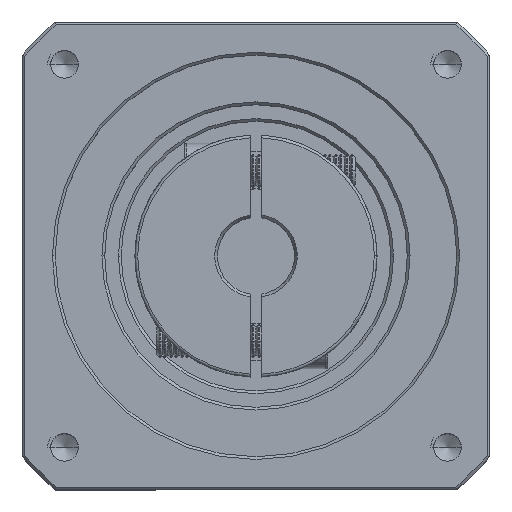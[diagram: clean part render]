
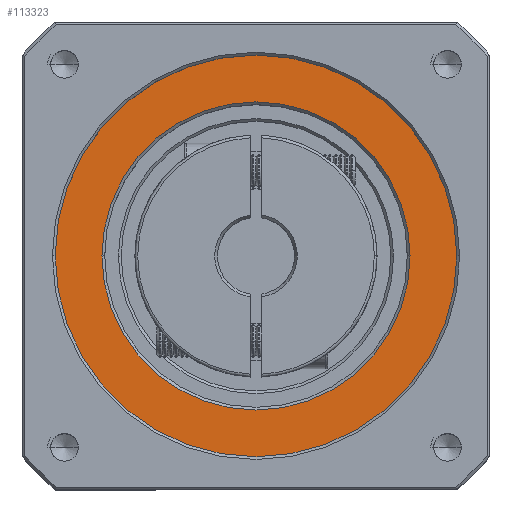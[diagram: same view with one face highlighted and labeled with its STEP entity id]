
A CAD part, top view. The second image highlights one B-rep face of the part: STEP entity #113323.
In plain terms, the highlighted planar face has unit normal (0, 0, 1).
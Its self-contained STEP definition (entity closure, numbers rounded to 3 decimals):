
#769 = CARTESIAN_POINT ( 'NONE',  ( -66.124, 38.632, -19.036 ) ) ;
#2038 = CIRCLE ( 'NONE', #87037, 28. ) ;
#6031 = VERTEX_POINT ( 'NONE', #769 ) ;
#10219 = DIRECTION ( 'NONE',  ( 1., 0., 0. ) ) ;
#10966 = ORIENTED_EDGE ( 'NONE', *, *, #96999, .T. ) ;
#18696 = EDGE_CURVE ( 'NONE', #32006, #43533, #67580, .T. ) ;
#20598 = DIRECTION ( 'NONE',  ( 1., 0., 0. ) ) ;
#21361 = CIRCLE ( 'NONE', #25538, 28. ) ;
#25538 = AXIS2_PLACEMENT_3D ( 'NONE', #28935, #117570, #10219 ) ;
#26741 = CIRCLE ( 'NONE', #72069, 36.5 ) ;
#28935 = CARTESIAN_POINT ( 'NONE',  ( -38.124, 38.632, -19.036 ) ) ;
#32006 = VERTEX_POINT ( 'NONE', #73909 ) ;
#35706 = EDGE_CURVE ( 'NONE', #6031, #106479, #2038, .T. ) ;
#43533 = VERTEX_POINT ( 'NONE', #58560 ) ;
#47748 = CARTESIAN_POINT ( 'NONE',  ( -38.124, 38.632, -19.036 ) ) ;
#49942 = PLANE ( 'NONE',  #103780 ) ;
#50928 = EDGE_LOOP ( 'NONE', ( #120904, #56202 ) ) ;
#56202 = ORIENTED_EDGE ( 'NONE', *, *, #18696, .T. ) ;
#58560 = CARTESIAN_POINT ( 'NONE',  ( -1.624, 38.632, -19.036 ) ) ;
#59765 = CARTESIAN_POINT ( 'NONE',  ( -38.124, 38.632, -19.036 ) ) ;
#67580 = CIRCLE ( 'NONE', #87040, 36.5 ) ;
#68226 = CARTESIAN_POINT ( 'NONE',  ( -38.124, 38.632, -19.036 ) ) ;
#69275 = FACE_BOUND ( 'NONE', #102968, .T. ) ;
#69985 = DIRECTION ( 'NONE',  ( 1., 0., 0. ) ) ;
#72069 = AXIS2_PLACEMENT_3D ( 'NONE', #47748, #125022, #115691 ) ;
#73909 = CARTESIAN_POINT ( 'NONE',  ( -74.624, 38.632, -19.036 ) ) ;
#77492 = ORIENTED_EDGE ( 'NONE', *, *, #35706, .T. ) ;
#79358 = DIRECTION ( 'NONE',  ( 0., 0., -1. ) ) ;
#87037 = AXIS2_PLACEMENT_3D ( 'NONE', #59765, #79358, #69985 ) ;
#87040 = AXIS2_PLACEMENT_3D ( 'NONE', #117172, #117974, #98542 ) ;
#87779 = DIRECTION ( 'NONE',  ( 0., 0., 1. ) ) ;
#96999 = EDGE_CURVE ( 'NONE', #106479, #6031, #21361, .T. ) ;
#98542 = DIRECTION ( 'NONE',  ( 1., 0., 0. ) ) ;
#102968 = EDGE_LOOP ( 'NONE', ( #10966, #77492 ) ) ;
#103780 = AXIS2_PLACEMENT_3D ( 'NONE', #68226, #87779, #20598 ) ;
#106479 = VERTEX_POINT ( 'NONE', #118450 ) ;
#113323 = ADVANCED_FACE ( 'NONE', ( #114815, #69275 ), #49942, .T. ) ;
#114815 = FACE_OUTER_BOUND ( 'NONE', #50928, .T. ) ;
#115691 = DIRECTION ( 'NONE',  ( 1., 0., 0. ) ) ;
#117172 = CARTESIAN_POINT ( 'NONE',  ( -38.124, 38.632, -19.036 ) ) ;
#117570 = DIRECTION ( 'NONE',  ( 0., 0., -1. ) ) ;
#117974 = DIRECTION ( 'NONE',  ( 0., 0., 1. ) ) ;
#118450 = CARTESIAN_POINT ( 'NONE',  ( -10.124, 38.632, -19.036 ) ) ;
#120904 = ORIENTED_EDGE ( 'NONE', *, *, #125302, .T. ) ;
#125022 = DIRECTION ( 'NONE',  ( 0., 0., 1. ) ) ;
#125302 = EDGE_CURVE ( 'NONE', #43533, #32006, #26741, .T. ) ;
